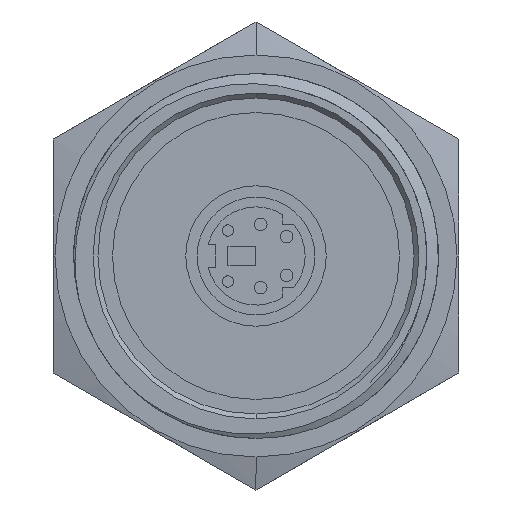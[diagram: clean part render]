
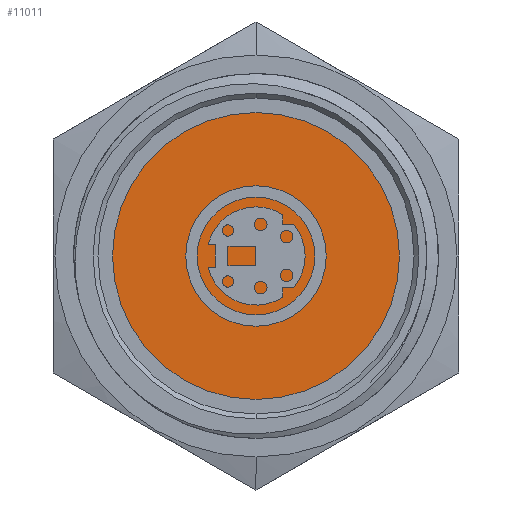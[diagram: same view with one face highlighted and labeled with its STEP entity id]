
A CAD part, left-side view. The second image highlights one B-rep face of the part: STEP entity #11011.
In plain terms, the highlighted planar face has unit normal (-1, 0, 0).
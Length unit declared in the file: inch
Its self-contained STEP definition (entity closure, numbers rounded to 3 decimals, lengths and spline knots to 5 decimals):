
#4505 = DIRECTION ( 'NONE',  ( 0., 0., 1. ) ) ;
#4506 = DIRECTION ( 'NONE',  ( -1., 0., 0. ) ) ;
#4507 = CARTESIAN_POINT ( 'NONE',  ( 0.545, 0., 0. ) ) ;
#4508 = AXIS2_PLACEMENT_3D ( 'NONE', #4507, #4506, #4505 ) ;
#4509 = CIRCLE ( 'NONE', #4508, 0.4425 ) ;
#4552 = CIRCLE ( 'NONE', #4600, 0.4425 ) ;
#4595 = CARTESIAN_POINT ( 'NONE',  ( 0.545, 0., -0.4425 ) ) ;
#4596 = CARTESIAN_POINT ( 'NONE',  ( 0.545, 0., 0.4425 ) ) ;
#4597 = DIRECTION ( 'NONE',  ( 0., 0., 1. ) ) ;
#4598 = DIRECTION ( 'NONE',  ( -1., 0., 0. ) ) ;
#4599 = CARTESIAN_POINT ( 'NONE',  ( 0.545, 0., 0. ) ) ;
#4600 = AXIS2_PLACEMENT_3D ( 'NONE', #4599, #4598, #4597 ) ;
#4608 = FACE_OUTER_BOUND ( 'NONE', #11012, .T. ) ;
#4649 = DIRECTION ( 'NONE',  ( 0., 0., -1. ) ) ;
#4650 = DIRECTION ( 'NONE',  ( 1., 0., 0. ) ) ;
#4651 = CARTESIAN_POINT ( 'NONE',  ( 0.545, 0., 0. ) ) ;
#4652 = AXIS2_PLACEMENT_3D ( 'NONE', #4651, #4650, #4649 ) ;
#4653 = PLANE ( 'NONE',  #4652 ) ;
#10980 = ORIENTED_EDGE ( 'NONE', *, *, #10991, .T. ) ;
#10991 = EDGE_CURVE ( 'NONE', #11004, #11003, #4509, .T. ) ;
#11001 = ORIENTED_EDGE ( 'NONE', *, *, #11002, .T. ) ;
#11002 = EDGE_CURVE ( 'NONE', #11003, #11004, #4552, .T. ) ;
#11003 = VERTEX_POINT ( 'NONE', #4596 ) ;
#11004 = VERTEX_POINT ( 'NONE', #4595 ) ;
#11011 = ADVANCED_FACE ( 'NONE', ( #4608 ), #4653, .F. ) ;
#11012 = EDGE_LOOP ( 'NONE', ( #11001, #10980 ) ) ;
